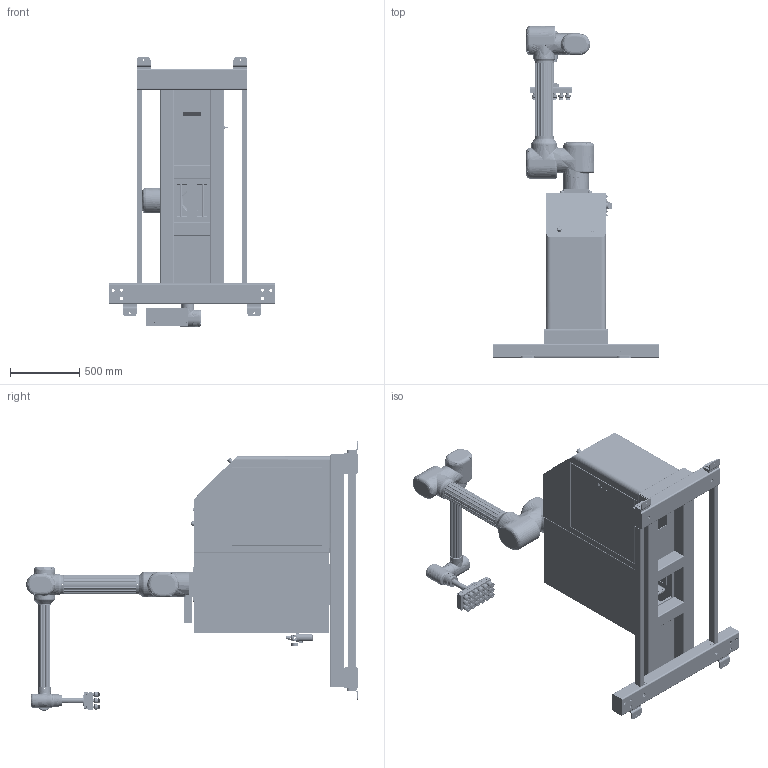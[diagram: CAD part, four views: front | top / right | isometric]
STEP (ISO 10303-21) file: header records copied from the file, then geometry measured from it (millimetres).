
FILE_DESCRIPTION (( 'STEP AP214' ), '1' );
FILE_NAME ('E3??.STEP', '2025-08-18T12:13:47', ( '' ), ( '' ), 'SwSTEP 2.0', 'SolidWorks 2020', '' );
FILE_SCHEMA (( 'AUTOMOTIVE_DESIGN' ));
Length unit declared in the file: millimetre
Products named in the file (21): ?? ????^?? ????_?? ?????_E3??_840; ?? 17??^?? ?????_E3??___; ?? ????^?? ?????_E3??___; ?? 32??^?? ????_?? ?????_E3??___; ?? (2) ???^?? ?????_E3??___; ?? 40??^?? ????_?? ?????_E3??___; ?? 17??^?? ????_?? ?????_E3??___; ?? ??^?? ?????_E3??___; ?? ?? (2) ^?? ????_?? ?????_E3??___; ?? ????^E3??___; ?? ??^?? ????_?? ?????_E3??___; ?? ?????^E3??___; E3??; ?? ?? (3) ^?? ????_?? ?????_E3??___; ?? ?? (4) ^?? ????_?? ?????_E3??___; ?? 40??^?? ?????_E3??___
Assembly tree (20 placements, depth 4):
  E3??
    ?? ????^E3??___
    ?? ?????^E3??___
      ?? ??^?? ?????_E3??___
      ?? 40??^?? ?????_E3??___
      ?? ????^?? ?????_E3??___
        ?? 40??^?? ????_?? ?????_E3??___
        ?? ????^?? ????_?? ?????_E3??_840
        ?? 32??^?? ????_?? ?????_E3??___
      ?? ????^?? ?????_E3??___
        ?? ????^?? ????_?? ?????_E3??_840
        ?? 32??^?? ????_?? ?????_E3??___
        ?? 17??^?? ????_?? ?????_E3??___
      ?? 17??^?? ?????_E3??___
      ?? ????^?? ?????_E3??___
        ?? ?? (2) ^?? ????_?? ?????_E3??___
        ?? ?? (3) ^?? ????_?? ?????_E3??___
        ?? ?? (4) ^?? ????_?? ?????_E3??___
        ?? ??^?? ????_?? ?????_E3??___
      ?? (2) ???^?? ?????_E3??___
      ?? ??^?? ?????_E3??___
Bounding box: 1200 x 2399.75 x 1950 mm (x, y, z)
Volume: 2127118.3 mm3; surface area: 18012412.1 mm2
Topology: 29 solids, 219 shells, 4543 faces, 13726 edges, 9468 vertices
Faces by surface type: bspline 2022, cylinder 1482, plane 751, cone 227, torus 53, sphere 8
Entity records: 261963 total; most frequent: CARTESIAN_POINT 113191, ORIENTED_EDGE 24244, DIRECTION 17084, EDGE_CURVE 13682, VERTEX_POINT 9468, AXIS2_PLACEMENT_3D 6512, EDGE_LOOP 5575, FACE_OUTER_BOUND 4543
